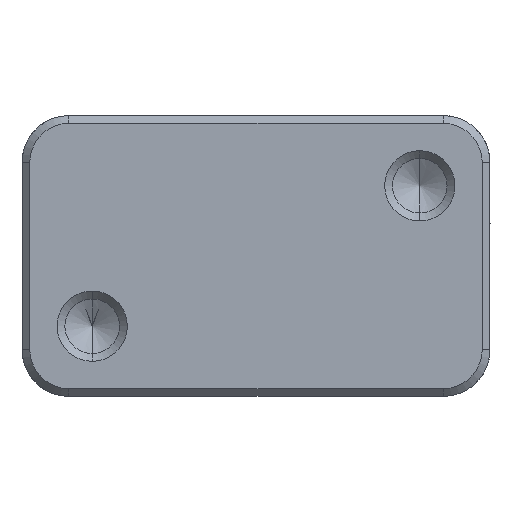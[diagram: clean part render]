
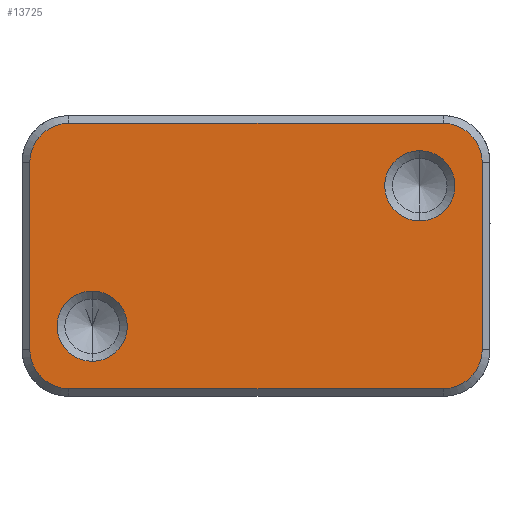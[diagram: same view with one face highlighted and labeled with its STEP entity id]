
A CAD part, front view. The second image highlights one B-rep face of the part: STEP entity #13725.
In plain terms, the highlighted planar face has unit normal (0, -1, 0).
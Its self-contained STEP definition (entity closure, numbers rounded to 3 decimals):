
#130 = DIRECTION ( 'NONE',  ( 0., -1., 0. ) ) ;
#147 = DIRECTION ( 'NONE',  ( 0., 0., -1. ) ) ;
#301 = FACE_OUTER_BOUND ( 'NONE', #13712, .T. ) ;
#363 = CIRCLE ( 'NONE', #10058, 4.5 ) ;
#480 = AXIS2_PLACEMENT_3D ( 'NONE', #4908, #8154, #8221 ) ;
#702 = CARTESIAN_POINT ( 'NONE',  ( 21., 0., 8.993 ) ) ;
#739 = VERTEX_POINT ( 'NONE', #9028 ) ;
#753 = CARTESIAN_POINT ( 'NONE',  ( 21., 0., 4.493 ) ) ;
#1043 = CIRCLE ( 'NONE', #9387, 4.5 ) ;
#1193 = LINE ( 'NONE', #6431, #5911 ) ;
#1256 = CARTESIAN_POINT ( 'NONE',  ( -24., 0., -12.009 ) ) ;
#1285 = EDGE_LOOP ( 'NONE', ( #4819, #4279 ) ) ;
#1289 = FACE_BOUND ( 'NONE', #6339, .T. ) ;
#1396 = DIRECTION ( 'NONE',  ( 0., 0., 1. ) ) ;
#1776 = CARTESIAN_POINT ( 'NONE',  ( 30., 0., 16.992 ) ) ;
#1856 = DIRECTION ( 'NONE',  ( 0., 0., 1. ) ) ;
#1935 = ORIENTED_EDGE ( 'NONE', *, *, #5535, .T. ) ;
#1959 = DIRECTION ( 'NONE',  ( 0., -1., 0. ) ) ;
#1981 = AXIS2_PLACEMENT_3D ( 'NONE', #1256, #130, #1396 ) ;
#2056 = DIRECTION ( 'NONE',  ( 0., 1., 0. ) ) ;
#2252 = CIRCLE ( 'NONE', #7666, 4.999 ) ;
#2264 = CARTESIAN_POINT ( 'NONE',  ( -29., 0., 17.992 ) ) ;
#2499 = VERTEX_POINT ( 'NONE', #2985 ) ;
#2882 = VECTOR ( 'NONE', #10171, 1000. ) ;
#2985 = CARTESIAN_POINT ( 'NONE',  ( -24., 0., -17.009 ) ) ;
#3014 = EDGE_CURVE ( 'NONE', #5595, #6088, #1043, .T. ) ;
#3022 = CIRCLE ( 'NONE', #9780, 4.5 ) ;
#3343 = FACE_BOUND ( 'NONE', #1285, .T. ) ;
#3653 = ORIENTED_EDGE ( 'NONE', *, *, #13921, .T. ) ;
#4038 = CARTESIAN_POINT ( 'NONE',  ( -21., 0., -9.009 ) ) ;
#4279 = ORIENTED_EDGE ( 'NONE', *, *, #12210, .T. ) ;
#4531 = EDGE_CURVE ( 'NONE', #12702, #8991, #10241, .T. ) ;
#4606 = DIRECTION ( 'NONE',  ( 0., -1., 0. ) ) ;
#4729 = CARTESIAN_POINT ( 'NONE',  ( 21., 0., 8.993 ) ) ;
#4819 = ORIENTED_EDGE ( 'NONE', *, *, #10750, .T. ) ;
#4888 = VERTEX_POINT ( 'NONE', #8108 ) ;
#4908 = CARTESIAN_POINT ( 'NONE',  ( 24., 0., 11.993 ) ) ;
#5093 = DIRECTION ( 'NONE',  ( 0., 0., -1. ) ) ;
#5208 = DIRECTION ( 'NONE',  ( 0., 0., -1. ) ) ;
#5454 = VERTEX_POINT ( 'NONE', #9531 ) ;
#5496 = VECTOR ( 'NONE', #12368, 1000. ) ;
#5535 = EDGE_CURVE ( 'NONE', #5454, #2499, #9196, .T. ) ;
#5595 = VERTEX_POINT ( 'NONE', #8740 ) ;
#5911 = VECTOR ( 'NONE', #7558, 1000. ) ;
#5961 = ORIENTED_EDGE ( 'NONE', *, *, #9207, .T. ) ;
#6088 = VERTEX_POINT ( 'NONE', #753 ) ;
#6228 = VERTEX_POINT ( 'NONE', #6254 ) ;
#6254 = CARTESIAN_POINT ( 'NONE',  ( 29., 0., -12.009 ) ) ;
#6328 = CARTESIAN_POINT ( 'NONE',  ( -24., 0., 11.993 ) ) ;
#6339 = EDGE_LOOP ( 'NONE', ( #13420, #7919 ) ) ;
#6430 = AXIS2_PLACEMENT_3D ( 'NONE', #10527, #2056, #12581 ) ;
#6431 = CARTESIAN_POINT ( 'NONE',  ( 29., 0., 17.992 ) ) ;
#6643 = LINE ( 'NONE', #2264, #8287 ) ;
#6732 = CARTESIAN_POINT ( 'NONE',  ( 30., 0., 17.992 ) ) ;
#7216 = DIRECTION ( 'NONE',  ( 0., -1., 0. ) ) ;
#7305 = ORIENTED_EDGE ( 'NONE', *, *, #4531, .T. ) ;
#7340 = AXIS2_PLACEMENT_3D ( 'NONE', #6732, #4606, #13208 ) ;
#7558 = DIRECTION ( 'NONE',  ( 0., 0., 1. ) ) ;
#7666 = AXIS2_PLACEMENT_3D ( 'NONE', #6328, #1959, #13864 ) ;
#7798 = CIRCLE ( 'NONE', #9602, 4.999 ) ;
#7803 = VERTEX_POINT ( 'NONE', #8885 ) ;
#7843 = DIRECTION ( 'NONE',  ( 0., 1., 0. ) ) ;
#7919 = ORIENTED_EDGE ( 'NONE', *, *, #3014, .T. ) ;
#7930 = CARTESIAN_POINT ( 'NONE',  ( -21., 0., -4.509 ) ) ;
#8057 = DIRECTION ( 'NONE',  ( 0., 0., -1. ) ) ;
#8066 = LINE ( 'NONE', #11163, #5496 ) ;
#8108 = CARTESIAN_POINT ( 'NONE',  ( 29., 0., 11.993 ) ) ;
#8154 = DIRECTION ( 'NONE',  ( 0., -1., 0. ) ) ;
#8155 = VERTEX_POINT ( 'NONE', #11206 ) ;
#8221 = DIRECTION ( 'NONE',  ( 0., 0., 1. ) ) ;
#8287 = VECTOR ( 'NONE', #147, 1000. ) ;
#8385 = DIRECTION ( 'NONE',  ( 0., 1., 0. ) ) ;
#8446 = EDGE_CURVE ( 'NONE', #6228, #4888, #1193, .T. ) ;
#8639 = ORIENTED_EDGE ( 'NONE', *, *, #8446, .T. ) ;
#8740 = CARTESIAN_POINT ( 'NONE',  ( 21., 0., 13.493 ) ) ;
#8885 = CARTESIAN_POINT ( 'NONE',  ( -29., 0., 11.993 ) ) ;
#8991 = VERTEX_POINT ( 'NONE', #10428 ) ;
#9028 = CARTESIAN_POINT ( 'NONE',  ( -21., 0., -13.509 ) ) ;
#9196 = CIRCLE ( 'NONE', #1981, 4.999 ) ;
#9207 = EDGE_CURVE ( 'NONE', #8991, #7803, #2252, .T. ) ;
#9272 = CIRCLE ( 'NONE', #480, 4.999 ) ;
#9387 = AXIS2_PLACEMENT_3D ( 'NONE', #4729, #7843, #8057 ) ;
#9426 = CARTESIAN_POINT ( 'NONE',  ( 24., 0., 16.992 ) ) ;
#9468 = CARTESIAN_POINT ( 'NONE',  ( 24., 0., -12.009 ) ) ;
#9531 = CARTESIAN_POINT ( 'NONE',  ( -29., 0., -12.009 ) ) ;
#9602 = AXIS2_PLACEMENT_3D ( 'NONE', #9468, #7216, #1856 ) ;
#9780 = AXIS2_PLACEMENT_3D ( 'NONE', #702, #8385, #5208 ) ;
#10038 = EDGE_CURVE ( 'NONE', #2499, #8155, #8066, .T. ) ;
#10058 = AXIS2_PLACEMENT_3D ( 'NONE', #4038, #13627, #5093 ) ;
#10171 = DIRECTION ( 'NONE',  ( -1., 0., 0. ) ) ;
#10241 = LINE ( 'NONE', #1776, #2882 ) ;
#10297 = EDGE_CURVE ( 'NONE', #6088, #5595, #3022, .T. ) ;
#10341 = ORIENTED_EDGE ( 'NONE', *, *, #11618, .T. ) ;
#10428 = CARTESIAN_POINT ( 'NONE',  ( -24., 0., 16.992 ) ) ;
#10527 = CARTESIAN_POINT ( 'NONE',  ( -21., 0., -9.009 ) ) ;
#10750 = EDGE_CURVE ( 'NONE', #739, #12961, #363, .T. ) ;
#10869 = EDGE_CURVE ( 'NONE', #8155, #6228, #7798, .T. ) ;
#10888 = PLANE ( 'NONE',  #7340 ) ;
#11017 = ORIENTED_EDGE ( 'NONE', *, *, #10869, .T. ) ;
#11163 = CARTESIAN_POINT ( 'NONE',  ( -282.5, 0., -17.009 ) ) ;
#11206 = CARTESIAN_POINT ( 'NONE',  ( 24., 0., -17.009 ) ) ;
#11618 = EDGE_CURVE ( 'NONE', #4888, #12702, #9272, .T. ) ;
#12148 = ORIENTED_EDGE ( 'NONE', *, *, #10038, .T. ) ;
#12210 = EDGE_CURVE ( 'NONE', #12961, #739, #13407, .T. ) ;
#12368 = DIRECTION ( 'NONE',  ( 1., 0., 0. ) ) ;
#12581 = DIRECTION ( 'NONE',  ( 0., 0., -1. ) ) ;
#12702 = VERTEX_POINT ( 'NONE', #9426 ) ;
#12961 = VERTEX_POINT ( 'NONE', #7930 ) ;
#13208 = DIRECTION ( 'NONE',  ( 1., 0., 0. ) ) ;
#13407 = CIRCLE ( 'NONE', #6430, 4.5 ) ;
#13420 = ORIENTED_EDGE ( 'NONE', *, *, #10297, .T. ) ;
#13627 = DIRECTION ( 'NONE',  ( 0., 1., 0. ) ) ;
#13712 = EDGE_LOOP ( 'NONE', ( #3653, #1935, #12148, #11017, #8639, #10341, #7305, #5961 ) ) ;
#13725 = ADVANCED_FACE ( 'NONE', ( #1289, #3343, #301 ), #10888, .T. ) ;
#13864 = DIRECTION ( 'NONE',  ( 0., 0., 1. ) ) ;
#13921 = EDGE_CURVE ( 'NONE', #7803, #5454, #6643, .T. ) ;
